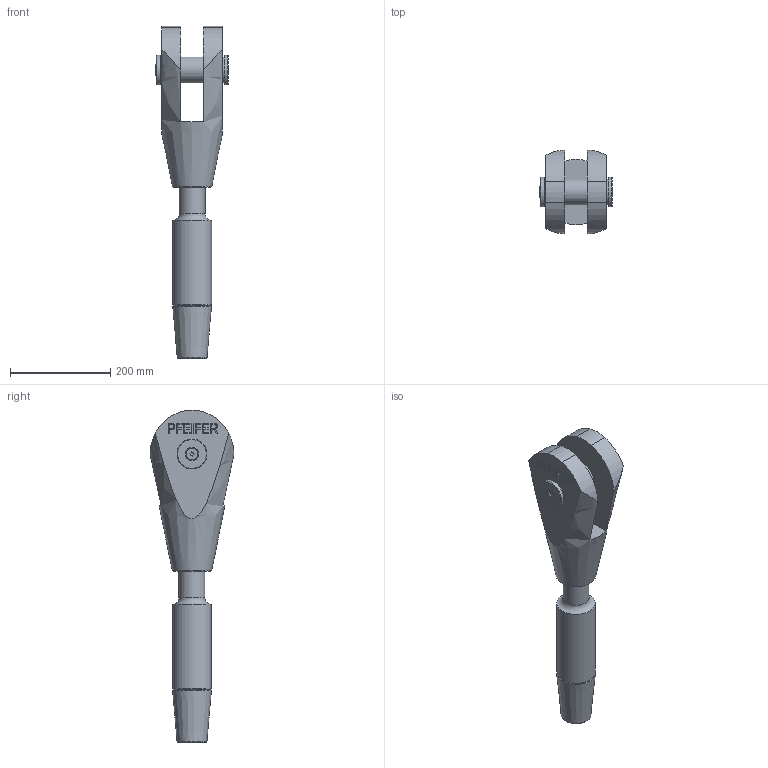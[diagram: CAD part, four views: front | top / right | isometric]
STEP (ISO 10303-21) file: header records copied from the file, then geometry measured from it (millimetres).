
FILE_DESCRIPTION(/* description */ (''),/* implementation_level */ '2;1');
FILE_NAME(/* name */ 'G:\Engineering\700 CAD\Internet-PX-1-step-igs-dxf\520-GAK-ADA-Arbeitsdateien\520-052-GAK-ADA.stp',/* time_stamp */ '2020-07-03T13:10:37+02:00',/* author */ ('schwarz'),/* organization */ (''),/* preprocessor_version */ 'ST-DEVELOPER v16.1',/* originating_system */ 'Autodesk Inventor 2016',/* authorisation */ '');
FILE_SCHEMA (('AUTOMOTIVE_DESIGN { 1 0 10303 214 3 1 1 }'));
Length unit declared in the file: centimetre
Products named in the file (1): 520-052-GAK-ADA-Kunde
Bounding box: 144.44 x 167.69 x 664 mm (x, y, z)
Volume: 4285857.4 mm3; surface area: 316182 mm2
Topology: 2 solids, 4 shells, 192 faces, 493 edges, 326 vertices
Faces by surface type: plane 138, bspline 21, cylinder 18, cone 14, torus 1
Full cylindrical faces by diameter (mm): 10.106 x1, 12 x1, 13.5 x1, 23.12 x1, 52 x2, 54.5 x1, 55 x2, 60 x2, 78 x1
Entity records: 5903 total; most frequent: CARTESIAN_POINT 1290, ORIENTED_EDGE 912, DIRECTION 792, EDGE_CURVE 456, LINE 348, VECTOR 348, VERTEX_POINT 316, EDGE_LOOP 242
